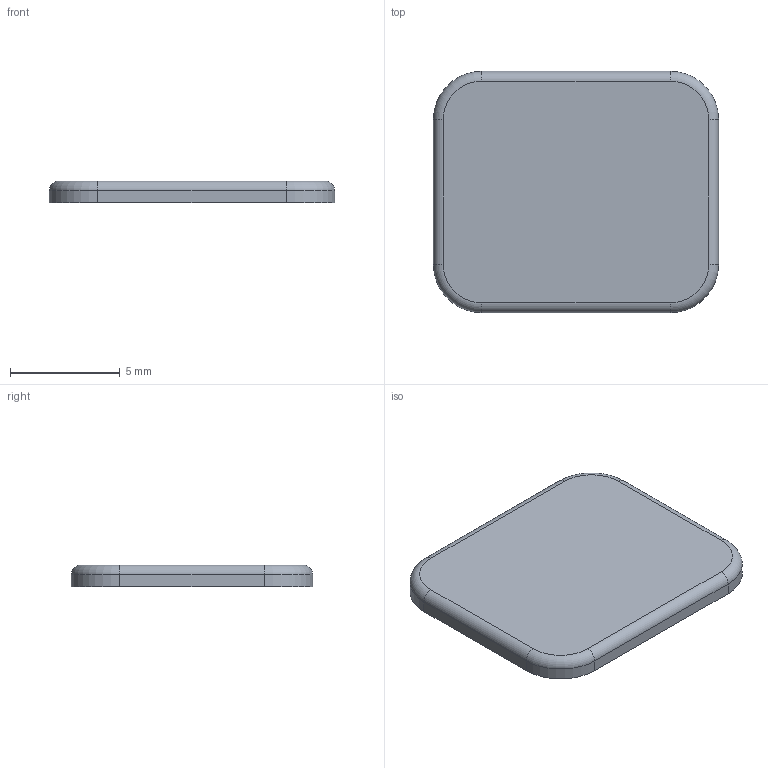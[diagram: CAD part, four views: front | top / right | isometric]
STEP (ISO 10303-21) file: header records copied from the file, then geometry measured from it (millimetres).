
FILE_DESCRIPTION(('Open CASCADE Model'),'2;1');
FILE_NAME('Open CASCADE Shape Model','2026-10-04T21:33:04',('Author'),( 'Open CASCADE'),'Open CASCADE STEP processor 7.9','Open CASCADE 7.9' ,'Unknown');
FILE_SCHEMA(('AUTOMOTIVE_DESIGN { 1 0 10303 214 1 1 1 1 }'));
Length unit declared in the file: millimetre
Products named in the file (1): Open CASCADE STEP translator 7.9 2
Bounding box: 13 x 11 x 1 mm (x, y, z)
Volume: 137 mm3; surface area: 313.3 mm2
Topology: 1 solids, 1 shells, 18 faces, 40 edges, 24 vertices
Faces by surface type: cylinder 8, plane 6, torus 4
Entity records: 1032 total; most frequent: CARTESIAN_POINT 215, DIRECTION 156, ORIENTED_EDGE 80, PCURVE 80, DEFINITIONAL_REPRESENTATION 80, LINE 76, VECTOR 76, EDGE_CURVE 40
